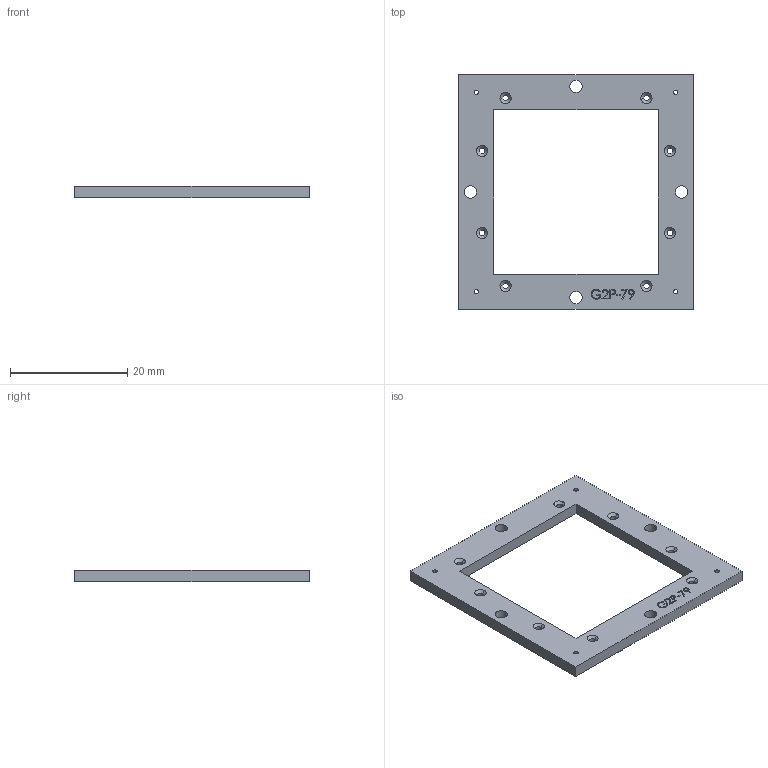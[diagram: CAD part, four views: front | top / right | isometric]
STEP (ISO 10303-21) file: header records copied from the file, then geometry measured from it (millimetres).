
FILE_DESCRIPTION (( 'STEP AP214' ), '1' );
FILE_NAME ('G_2_prima.STEP', '2016-02-28T12:21:18', ( '' ), ( '' ), 'SwSTEP 2.0', 'SolidWorks 2012', '' );
FILE_SCHEMA (( 'AUTOMOTIVE_DESIGN' ));
Length unit declared in the file: millimetre
Products named in the file (1): G_2_prima
Bounding box: 40 x 40 x 2 mm (x, y, z)
Volume: 1584.3 mm3; surface area: 2257.2 mm2
Topology: 1 solids, 1 shells, 127 faces, 335 edges, 218 vertices
Faces by surface type: plane 49, cylinder 32, bspline 30, cone 16
Entity records: 5815 total; most frequent: CARTESIAN_POINT 2703, ORIENTED_EDGE 670, DIRECTION 551, EDGE_CURVE 335, VERTEX_POINT 218, VECTOR 195, LINE 195, AXIS2_PLACEMENT_3D 178
